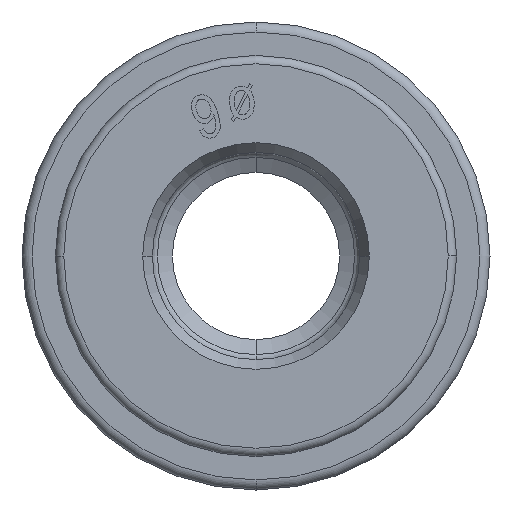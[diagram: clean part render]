
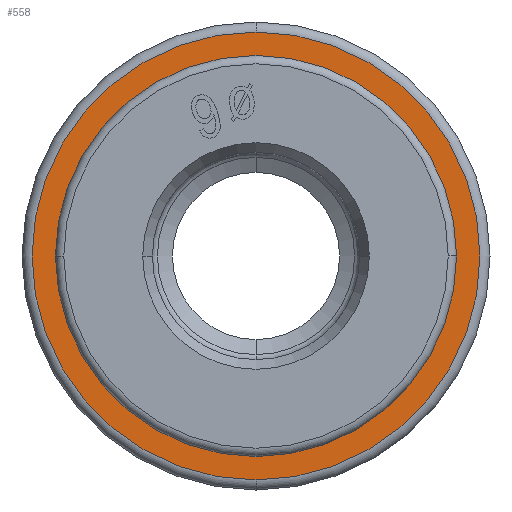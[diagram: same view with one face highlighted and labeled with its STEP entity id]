
A CAD part, front view. The second image highlights one B-rep face of the part: STEP entity #558.
In plain terms, the highlighted planar face has unit normal (0, -1, 0).
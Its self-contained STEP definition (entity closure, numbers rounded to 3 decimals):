
#436 = CARTESIAN_POINT ( 'NONE',  ( 0., 0., 0. ) ) ;
#558 = ADVANCED_FACE ( 'NONE', ( #2275, #4466 ), #893, .T. ) ;
#805 = ORIENTED_EDGE ( 'NONE', *, *, #7793, .F. ) ;
#874 = EDGE_CURVE ( 'NONE', #3245, #8200, #8330, .T. ) ;
#893 = PLANE ( 'NONE',  #5609 ) ;
#907 = CARTESIAN_POINT ( 'NONE',  ( 0., 0., -6.7 ) ) ;
#1030 = DIRECTION ( 'NONE',  ( 0., -1., 0. ) ) ;
#1786 = AXIS2_PLACEMENT_3D ( 'NONE', #8373, #9186, #2520 ) ;
#1808 = DIRECTION ( 'NONE',  ( 0., 0., -1. ) ) ;
#1852 = CARTESIAN_POINT ( 'NONE',  ( 0., 0., 0. ) ) ;
#2275 = FACE_BOUND ( 'NONE', #8103, .T. ) ;
#2311 = CARTESIAN_POINT ( 'NONE',  ( 0., 0., 0. ) ) ;
#2505 = CIRCLE ( 'NONE', #8125, 6.7 ) ;
#2520 = DIRECTION ( 'NONE',  ( 0., 0., -1. ) ) ;
#2643 = DIRECTION ( 'NONE',  ( 0., 0., -1. ) ) ;
#2933 = DIRECTION ( 'NONE',  ( 0., 0., -1. ) ) ;
#3238 = AXIS2_PLACEMENT_3D ( 'NONE', #436, #1030, #6216 ) ;
#3245 = VERTEX_POINT ( 'NONE', #907 ) ;
#3327 = CARTESIAN_POINT ( 'NONE',  ( 0., 0., 6.7 ) ) ;
#4115 = DIRECTION ( 'NONE',  ( 0., -1., 0. ) ) ;
#4125 = EDGE_CURVE ( 'NONE', #5197, #4505, #9414, .T. ) ;
#4466 = FACE_OUTER_BOUND ( 'NONE', #9393, .T. ) ;
#4505 = VERTEX_POINT ( 'NONE', #6823 ) ;
#4520 = CARTESIAN_POINT ( 'NONE',  ( 0., 0., -5.9 ) ) ;
#4704 = AXIS2_PLACEMENT_3D ( 'NONE', #2311, #5808, #2933 ) ;
#4976 = ORIENTED_EDGE ( 'NONE', *, *, #8132, .T. ) ;
#5197 = VERTEX_POINT ( 'NONE', #4520 ) ;
#5550 = CIRCLE ( 'NONE', #3238, 5.9 ) ;
#5609 = AXIS2_PLACEMENT_3D ( 'NONE', #9071, #8308, #2643 ) ;
#5808 = DIRECTION ( 'NONE',  ( 0., -1., 0. ) ) ;
#6216 = DIRECTION ( 'NONE',  ( 0., 0., -1. ) ) ;
#6823 = CARTESIAN_POINT ( 'NONE',  ( 0., 0., 5.9 ) ) ;
#7127 = ORIENTED_EDGE ( 'NONE', *, *, #4125, .F. ) ;
#7793 = EDGE_CURVE ( 'NONE', #4505, #5197, #5550, .T. ) ;
#8103 = EDGE_LOOP ( 'NONE', ( #7127, #805 ) ) ;
#8125 = AXIS2_PLACEMENT_3D ( 'NONE', #1852, #4115, #1808 ) ;
#8132 = EDGE_CURVE ( 'NONE', #8200, #3245, #2505, .T. ) ;
#8200 = VERTEX_POINT ( 'NONE', #3327 ) ;
#8308 = DIRECTION ( 'NONE',  ( 0., -1., 0. ) ) ;
#8330 = CIRCLE ( 'NONE', #4704, 6.7 ) ;
#8373 = CARTESIAN_POINT ( 'NONE',  ( 0., 0., 0. ) ) ;
#9071 = CARTESIAN_POINT ( 'NONE',  ( 0., 0., 0. ) ) ;
#9186 = DIRECTION ( 'NONE',  ( 0., -1., 0. ) ) ;
#9187 = ORIENTED_EDGE ( 'NONE', *, *, #874, .T. ) ;
#9393 = EDGE_LOOP ( 'NONE', ( #9187, #4976 ) ) ;
#9414 = CIRCLE ( 'NONE', #1786, 5.9 ) ;
